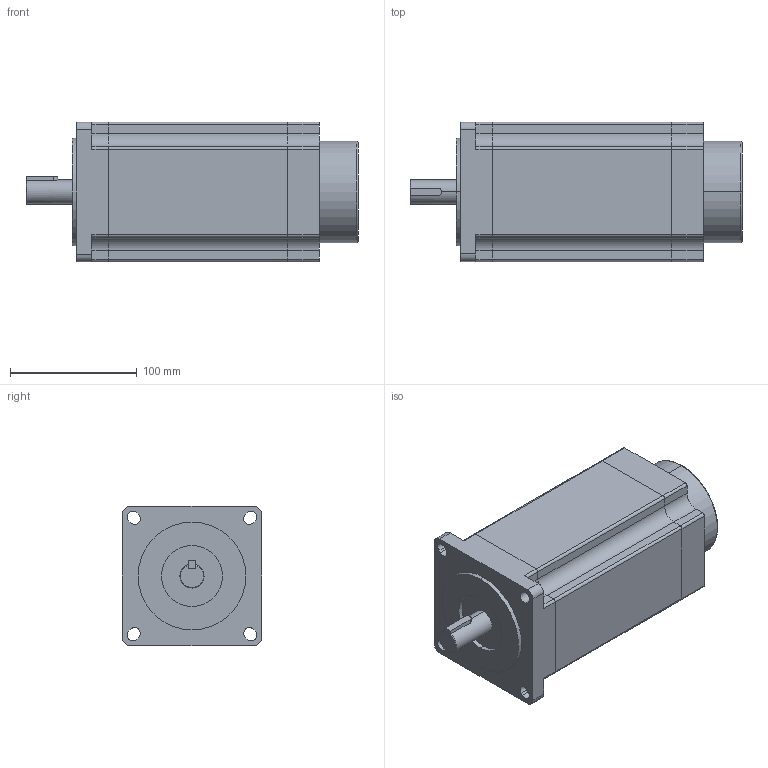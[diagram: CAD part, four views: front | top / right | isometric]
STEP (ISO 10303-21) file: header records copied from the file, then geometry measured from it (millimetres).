
FILE_DESCRIPTION (( 'STEP AP203' ), '1' );
FILE_NAME ('TM4203C68A-P1000.STEP', '2019-02-22T06:20:29', ( 'User' ), ( 'www.dadighost.com' ), 'SwSTEP 2.0', 'SolidWorks 2014', '' );
FILE_SCHEMA (( 'CONFIG_CONTROL_DESIGN' ));
Length unit declared in the file: millimetre
Products named in the file (1): TM4203C68A-P1000
Bounding box: 262 x 110 x 110 mm (x, y, z)
Volume: 2238079.7 mm3; surface area: 159696.3 mm2
Topology: 4 solids, 4 shells, 133 faces, 359 edges, 238 vertices
Faces by surface type: plane 66, cylinder 63, torus 2, cone 2
Entity records: 4328 total; most frequent: CARTESIAN_POINT 769, DIRECTION 753, ORIENTED_EDGE 718, EDGE_CURVE 359, AXIS2_PLACEMENT_3D 264, VERTEX_POINT 238, VECTOR 225, LINE 225
